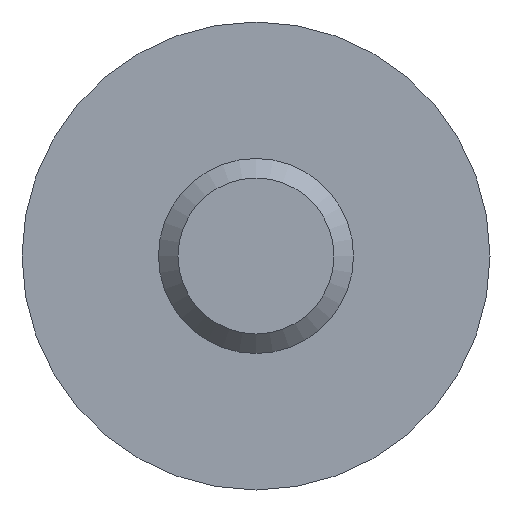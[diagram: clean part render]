
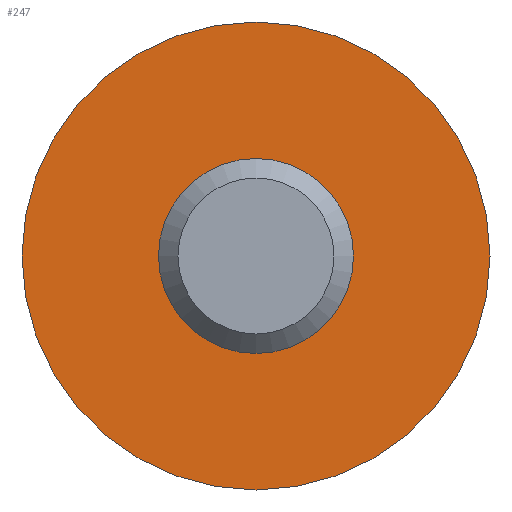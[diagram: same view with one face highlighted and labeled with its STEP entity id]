
A CAD part, left-side view. The second image highlights one B-rep face of the part: STEP entity #247.
In plain terms, the highlighted planar face has unit normal (-1, 0, 0).
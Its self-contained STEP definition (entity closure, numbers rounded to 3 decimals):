
#17=FACE_BOUND('',#61,.T.);
#27=PLANE('',#300);
#42=FACE_OUTER_BOUND('',#60,.T.);
#60=EDGE_LOOP('',(#221));
#61=EDGE_LOOP('',(#222));
#75=CIRCLE('',#297,3.5);
#77=CIRCLE('',#301,12.);
#128=VERTEX_POINT('',#475);
#130=VERTEX_POINT('',#482);
#159=EDGE_CURVE('',#128,#128,#75,.T.);
#161=EDGE_CURVE('',#130,#130,#77,.T.);
#221=ORIENTED_EDGE('',*,*,#161,.F.);
#222=ORIENTED_EDGE('',*,*,#159,.T.);
#247=ADVANCED_FACE('',(#42,#17),#27,.T.);
#297=AXIS2_PLACEMENT_3D('',#477,#369,#370);
#300=AXIS2_PLACEMENT_3D('',#481,#375,#376);
#301=AXIS2_PLACEMENT_3D('',#483,#377,#378);
#369=DIRECTION('center_axis',(1.,0.,0.));
#370=DIRECTION('ref_axis',(0.,0.,1.));
#375=DIRECTION('center_axis',(-1.,0.,0.));
#376=DIRECTION('ref_axis',(0.,0.,1.));
#377=DIRECTION('center_axis',(1.,0.,0.));
#378=DIRECTION('ref_axis',(0.,1.,0.));
#475=CARTESIAN_POINT('',(130.,0.,-3.5));
#477=CARTESIAN_POINT('Origin',(130.,0.,0.));
#481=CARTESIAN_POINT('Origin',(130.,6.,0.));
#482=CARTESIAN_POINT('',(130.,-12.,0.));
#483=CARTESIAN_POINT('Origin',(130.,0.,0.));
